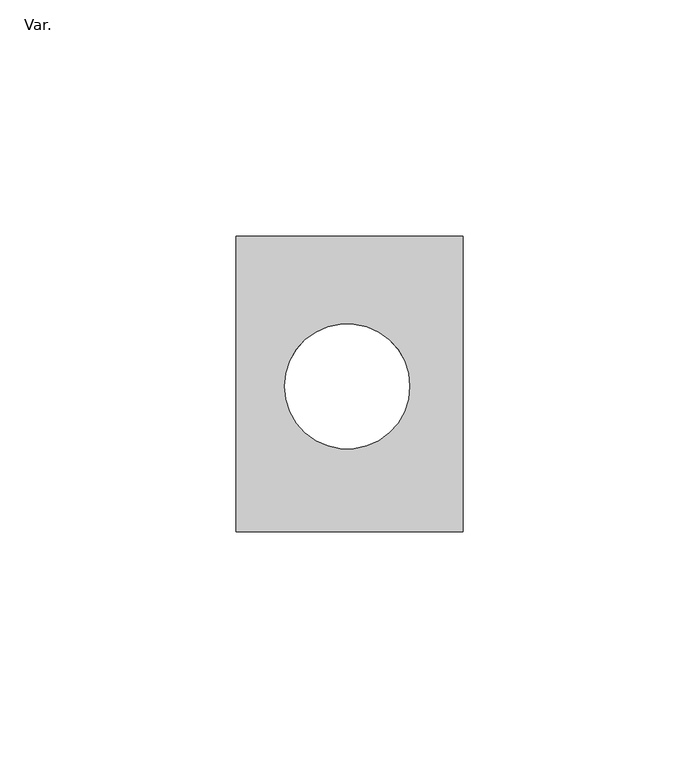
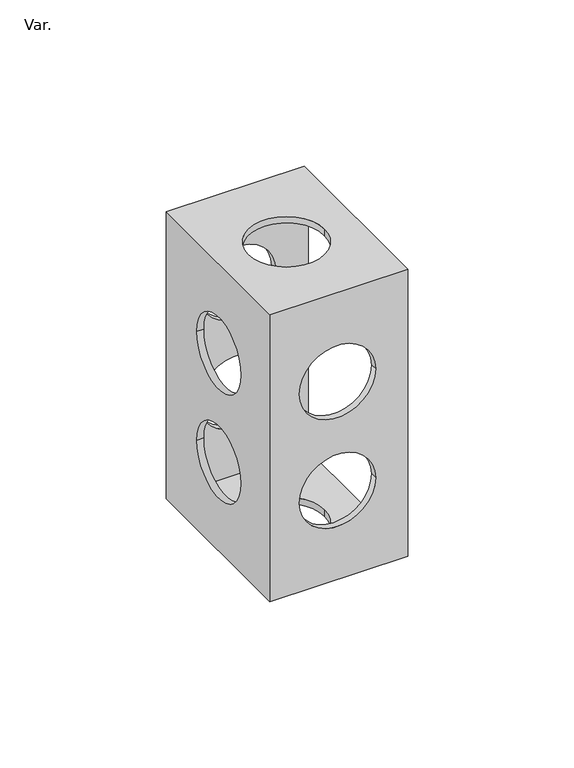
"""IFC4 building model written with IfcOpenShell, lengths in millimetres: cable carrier fitting geometry, AmancoWavin_ConduitFittings_CajaRectangular : Var.."""

from ifc_helpers import new_model, si_unit, frame, origin, place, context, project, spatial, polyline, circle_curve, source, transform, mapped, element, save
from ifc_brep_helpers import plane_surface, revolved_surface, advanced_brep


def var_e6148d44(model_context):
    return source(origin(), model_context, "Body", "AdvancedBrep", [
        advanced_brep(
        [(-48.0, 31.7345775, 105.5), (-48.0, -30.75, 105.5), (0.0, -30.75, 105.5), (0.0, 31.7345775, 105.5), (-37.75, 0.0, 105.5), (-11.25, 0.0, 105.5), (-48.0, 31.7345775, 0.0), (0.0, 31.7345775, 0.0), (0.0, -30.75, 0.0), (-48.0, -30.75, 0.0), (-37.75, 0.0, 0.0), (-11.25, 0.0, 0.0), (-48.0, 13.25, 32.75), (-48.0, -13.25, 32.75), (-48.0, 13.25, 72.75), (-48.0, -13.25, 72.75), (-11.25, -30.75, 32.75), (-37.75, -30.75, 32.75), (-11.25, -30.75, 72.75), (-37.75, -30.75, 72.75), (0.0, -28.41, 103.16), (0.0, 29.3945775, 103.16), (0.0, 29.3945775, 2.34), (0.0, -28.41, 2.34), (-37.75, 31.7345775, 32.75), (-11.25, 31.7345775, 32.75), (-37.75, 31.7345775, 72.75), (-11.25, 31.7345775, 72.75), (-37.75, 0.0, 103.16), (-11.25, 0.0, 103.16), (-11.25, 0.0, 2.34), (-37.75, 0.0, 2.34), (-11.25, -28.41, 32.75), (-37.75, -28.41, 32.75), (-37.75, 29.3945775, 32.75), (-11.25, 29.3945775, 32.75), (-11.25, -28.41, 72.75), (-37.75, -28.41, 72.75), (-37.75, 29.3945775, 72.75), (-11.25, 29.3945775, 72.75), (-45.6569133, 29.3945775, 103.16), (-45.6569133, -28.41, 103.16), (-45.6569133, -28.41, 2.34), (-45.6569133, 29.3945775, 2.34), (-45.6569133, -13.25, 32.75), (-45.6569133, 13.25, 32.75), (-45.6569133, -13.25, 72.75), (-45.6569133, 13.25, 72.75)],
        [
            (0, 1),
            (1, 2),
            (2, 3),
            (3, 0),
            (4, 5, circle_curve(frame((-24.5, 0.0, 105.5), z_axis=(0.0, 0.0, -1.0), x_axis=(1.0, 0.0, 0.0)), 13.25)),
            (5, 4, circle_curve(frame((-24.5, 0.0, 105.5), z_axis=(0.0, 0.0, -1.0), x_axis=(1.0, 0.0, 0.0)), 13.25)),
            (6, 7),
            (7, 8),
            (8, 9),
            (9, 6),
            (10, 11, circle_curve(frame((-24.5, 0.0, 0.0), z_axis=(0.0, 0.0, 1.0), x_axis=(1.0, 0.0, 0.0)), 13.25)),
            (11, 10, circle_curve(frame((-24.5, 0.0, 0.0), z_axis=(0.0, 0.0, 1.0), x_axis=(1.0, 0.0, 0.0)), 13.25)),
            (0, 6),
            (9, 1),
            (12, 13, circle_curve(frame((-48.0, 0.0, 32.75), z_axis=(1.0, 0.0, 0.0), x_axis=(0.0, -1.0, 0.0)), 13.25)),
            (13, 12, circle_curve(frame((-48.0, 0.0, 32.75), z_axis=(1.0, 0.0, 0.0), x_axis=(0.0, -1.0, 0.0)), 13.25)),
            (14, 15, circle_curve(frame((-48.0, 0.0, 72.75), z_axis=(1.0, 0.0, 0.0), x_axis=(0.0, -1.0, 0.0)), 13.25)),
            (15, 14, circle_curve(frame((-48.0, 0.0, 72.75), z_axis=(1.0, 0.0, 0.0), x_axis=(0.0, -1.0, 0.0)), 13.25)),
            (8, 2),
            (16, 17, circle_curve(frame((-24.5, -30.75, 32.75), z_axis=(0.0, 1.0, 0.0), x_axis=(1.0, 0.0, 0.0)), 13.25)),
            (17, 16, circle_curve(frame((-24.5, -30.75, 32.75), z_axis=(0.0, 1.0, 0.0), x_axis=(1.0, 0.0, 0.0)), 13.25)),
            (18, 19, circle_curve(frame((-24.5, -30.75, 72.75), z_axis=(0.0, 1.0, 0.0), x_axis=(1.0, 0.0, 0.0)), 13.25)),
            (19, 18, circle_curve(frame((-24.5, -30.75, 72.75), z_axis=(0.0, 1.0, 0.0), x_axis=(1.0, 0.0, 0.0)), 13.25)),
            (7, 3),
            (20, 21),
            (21, 22),
            (22, 23),
            (23, 20),
            (24, 25, circle_curve(frame((-24.5, 31.7345775, 32.75), z_axis=(0.0, -1.0, 0.0), x_axis=(1.0, 0.0, 0.0)), 13.25)),
            (25, 24, circle_curve(frame((-24.5, 31.7345775, 32.75), z_axis=(0.0, -1.0, 0.0), x_axis=(1.0, 0.0, 0.0)), 13.25)),
            (26, 27, circle_curve(frame((-24.5, 31.7345775, 72.75), z_axis=(0.0, -1.0, 0.0), x_axis=(1.0, 0.0, 0.0)), 13.25)),
            (27, 26, circle_curve(frame((-24.5, 31.7345775, 72.75), z_axis=(0.0, -1.0, 0.0), x_axis=(1.0, 0.0, 0.0)), 13.25)),
            (4, 28),
            (28, 29, circle_curve(frame((-24.5, 0.0, 103.16), z_axis=(0.0, 0.0, -1.0), x_axis=(1.0, 0.0, 0.0)), 13.25)),
            (29, 5),
            (11, 30),
            (30, 31, circle_curve(frame((-24.5, 0.0, 2.34), z_axis=(0.0, 0.0, 1.0), x_axis=(1.0, 0.0, 0.0)), 13.25)),
            (31, 10),
            (29, 28, circle_curve(frame((-24.5, 0.0, 103.16), z_axis=(0.0, 0.0, -1.0), x_axis=(1.0, 0.0, 0.0)), 13.25)),
            (31, 30, circle_curve(frame((-24.5, 0.0, 2.34), z_axis=(0.0, 0.0, 1.0), x_axis=(1.0, 0.0, 0.0)), 13.25)),
            (16, 32),
            (32, 33, circle_curve(frame((-24.5, -28.41, 32.75), z_axis=(0.0, 1.0, 0.0), x_axis=(1.0, 0.0, 0.0)), 13.25)),
            (33, 17),
            (24, 34),
            (34, 35, circle_curve(frame((-24.5, 29.3945775, 32.75), z_axis=(0.0, -1.0, 0.0), x_axis=(1.0, 0.0, 0.0)), 13.25)),
            (35, 25),
            (33, 32, circle_curve(frame((-24.5, -28.41, 32.75), z_axis=(0.0, 1.0, 0.0), x_axis=(1.0, 0.0, 0.0)), 13.25)),
            (35, 34, circle_curve(frame((-24.5, 29.3945775, 32.75), z_axis=(0.0, -1.0, 0.0), x_axis=(1.0, 0.0, 0.0)), 13.25)),
            (18, 36),
            (36, 37, circle_curve(frame((-24.5, -28.41, 72.75), z_axis=(0.0, 1.0, 0.0), x_axis=(1.0, 0.0, 0.0)), 13.25)),
            (37, 19),
            (26, 38),
            (38, 39, circle_curve(frame((-24.5, 29.3945775, 72.75), z_axis=(0.0, -1.0, 0.0), x_axis=(1.0, 0.0, 0.0)), 13.25)),
            (39, 27),
            (37, 36, circle_curve(frame((-24.5, -28.41, 72.75), z_axis=(0.0, 1.0, 0.0), x_axis=(1.0, 0.0, 0.0)), 13.25)),
            (39, 38, circle_curve(frame((-24.5, 29.3945775, 72.75), z_axis=(0.0, -1.0, 0.0), x_axis=(1.0, 0.0, 0.0)), 13.25)),
            (40, 41),
            (41, 42),
            (42, 43),
            (43, 40),
            (44, 45, circle_curve(frame((-45.6569133, 0.0, 32.75), z_axis=(-1.0, 0.0, 0.0), x_axis=(0.0, -1.0, 0.0)), 13.25)),
            (45, 44, circle_curve(frame((-45.6569133, 0.0, 32.75), z_axis=(-1.0, 0.0, 0.0), x_axis=(0.0, -1.0, 0.0)), 13.25)),
            (46, 47, circle_curve(frame((-45.6569133, 0.0, 72.75), z_axis=(-1.0, 0.0, 0.0), x_axis=(0.0, -1.0, 0.0)), 13.25)),
            (47, 46, circle_curve(frame((-45.6569133, 0.0, 72.75), z_axis=(-1.0, 0.0, 0.0), x_axis=(0.0, -1.0, 0.0)), 13.25)),
            (40, 21),
            (20, 41),
            (23, 42),
            (22, 43),
            (44, 13),
            (12, 45),
            (46, 15),
            (14, 47),
        ],
        [
            plane_surface(frame((-48.0, 17.6416276, 105.5), z_axis=(0.0, 0.0, 1.0), x_axis=(0.0, -1.0, 0.0))),
            plane_surface(frame((-48.0, 17.6416276, 0.0), z_axis=(0.0, 0.0, -1.0), x_axis=(0.0, 1.0, 0.0))),
            plane_surface(frame((-48.0, 31.7345775, 105.5), z_axis=(-1.0, 0.0, 0.0), x_axis=(0.0, 0.0, -1.0))),
            plane_surface(frame((-48.0, -30.75, 105.5), z_axis=(0.0, -1.0, 0.0), x_axis=(0.0, 0.0, -1.0))),
            plane_surface(frame((0.0, -30.75, 105.5), z_axis=(1.0, 0.0, 0.0), x_axis=(0.0, 0.0, -1.0))),
            plane_surface(frame((0.0, 31.7345775, 105.5), z_axis=(0.0, 1.0, 0.0), x_axis=(0.0, 0.0, -1.0))),
            revolved_surface(polyline([(-11.25, 0.0, 103.16), (-11.25, 0.0, 105.5)]), (-24.5, 0.0, 0.0), (0.0, 0.0, -1.0)),
            revolved_surface(polyline([(-11.25, 0.0, 0.0), (-11.25, 0.0, 2.34)]), (-24.5, 0.0, 0.0), (0.0, 0.0, -1.0)),
            revolved_surface(polyline([(-11.25, -30.75, 32.75), (-11.25, -28.409999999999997, 32.75)]), (-24.5, 31.7345775, 32.75), (0.0, -1.0, 0.0)),
            revolved_surface(polyline([(-11.25, 29.3945775, 32.75), (-11.25, 31.7345775, 32.75)]), (-24.5, 31.7345775, 32.75), (0.0, -1.0, 0.0)),
            revolved_surface(polyline([(-11.25, -30.75, 72.75), (-11.25, -28.41, 72.75)]), (-24.5, 0.0, 72.75), (0.0, -1.0, 0.0)),
            revolved_surface(polyline([(-11.25, 29.3945775, 72.75), (-11.25, 31.7345775, 72.75)]), (-24.5, 0.0, 72.75), (0.0, -1.0, 0.0)),
            plane_surface(frame((-45.6569133, -28.41, 103.16), z_axis=(1.0, 0.0, 0.0), x_axis=(0.0, 1.0, 0.0))),
            plane_surface(frame((0.0, 29.3945775, 103.16), z_axis=(0.0, 0.0, -1.0), x_axis=(-1.0, 0.0, 0.0))),
            plane_surface(frame((0.0, -28.41, 103.16), z_axis=(0.0, 1.0, 0.0), x_axis=(-1.0, 0.0, 0.0))),
            plane_surface(frame((0.0, -28.41, 2.34), z_axis=(0.0, 0.0, 1.0), x_axis=(-1.0, 0.0, 0.0))),
            plane_surface(frame((0.0, 29.3945775, 2.34), z_axis=(0.0, -1.0, 0.0), x_axis=(-1.0, 0.0, 0.0))),
            revolved_surface(polyline([(-45.6569133, -13.25, 32.75), (-48.0, -13.25, 32.75)]), (-48.0, 0.0, 32.75), (1.0, 0.0, 0.0)),
            revolved_surface(polyline([(-45.6569133, -13.25, 72.75), (-48.0, -13.25, 72.75)]), (0.0, 0.0, 72.75), (1.0, 0.0, 0.0)),
        ],
        [
            (0, [[1, 2, 3, 4], [5, 6]]),
            (1, [[7, 8, 9, 10], [11, 12]]),
            (2, [[-1, 13, -10, 14], [15, 16], [17, 18]]),
            (3, [[-2, -14, -9, 19], [20, 21], [22, 23]]),
            (4, [[-3, -19, -8, 24], [25, 26, 27, 28]]),
            (5, [[-4, -24, -7, -13], [29, 30], [31, 32]]),
            (6, [[-5, 33, 34, 35]]),
            (7, [[-12, 36, 37, 38]]),
            (6, [[-6, -35, 39, -33]]),
            (7, [[-11, -38, 40, -36]]),
            (8, [[-20, 41, 42, 43]]),
            (9, [[-29, 44, 45, 46]]),
            (8, [[-21, -43, 47, -41]]),
            (9, [[-30, -46, 48, -44]]),
            (10, [[-22, 49, 50, 51]]),
            (11, [[-31, 52, 53, 54]]),
            (10, [[-23, -51, 55, -49]]),
            (11, [[-32, -54, 56, -52]]),
            (12, [[57, 58, 59, 60], [61, 62], [63, 64]]),
            (13, [[-57, 65, -25, 66], [-34, -39]]),
            (14, [[-58, -66, -28, 67], [-42, -47], [-50, -55]]),
            (15, [[-59, -67, -27, 68], [-37, -40]]),
            (16, [[-60, -68, -26, -65], [-45, -48], [-53, -56]]),
            (17, [[69, -15, 70, -61]]),
            (17, [[-69, -62, -70, -16]]),
            (18, [[71, -17, 72, -63]]),
            (18, [[-71, -64, -72, -18]]),
        ],
    ),
    ])


if __name__ == "__main__":
    model = new_model("IFC4")
    model_context = context("Model", 3, world=origin())
    ifc_project = project(units=[si_unit("LENGTHUNIT", "METRE", prefix="MILLI")], contexts=[model_context])
    site = spatial("IfcSite", under=ifc_project)
    building = spatial("IfcBuilding", under=site)
    placement = place(None, origin())
    var_shape = var_e6148d44(model_context)
    element("IfcCableCarrierFitting", 1, ObjectType="AmancoWavin_ConduitFittings_CajaRectangular : Var.", at=placement, inside=building, context=model_context, shape_type="MappedRepresentation", body=[
        mapped(var_shape, transform((0.0, 0.0, 0.0), x_axis=(1.0, 0.0, 0.0), y_axis=(0.0, 1.0, 0.0), z_axis=(0.0, 0.0, 1.0))),
    ])
    save(model, "model.ifc")
